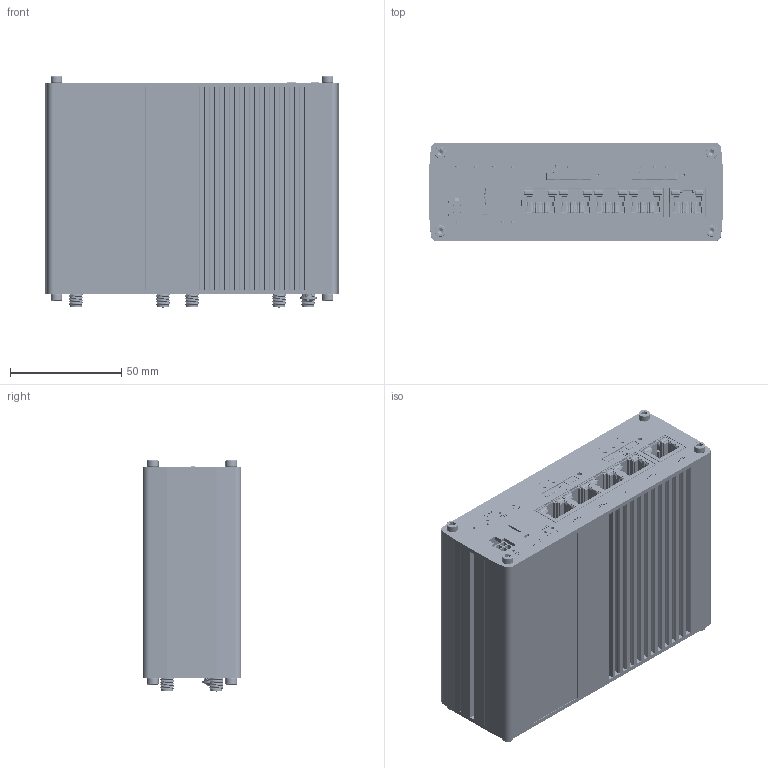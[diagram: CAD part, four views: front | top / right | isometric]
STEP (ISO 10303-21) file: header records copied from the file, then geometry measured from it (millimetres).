
FILE_DESCRIPTION (( 'STEP AP214' ), '1' );
FILE_NAME ('0636_RUTM16AMBK_01_with_press.STEP', '2025-12-12T07:30:36', ( '' ), ( '' ), 'SwSTEP 2.0', 'SolidWorks 2024', '' );
FILE_SCHEMA (( 'AUTOMOTIVE_DESIGN' ));
Length unit declared in the file: millimetre
Products named in the file (1): 0636_RUTM16AMBK_01_with_press
Bounding box: 132 x 44.2 x 104 mm (x, y, z)
Volume: 161369.1 mm3; surface area: 179873.4 mm2
Topology: 76 solids, 79 shells, 9865 faces, 27138 edges, 17690 vertices
Faces by surface type: plane 5813, cylinder 3104, bspline 762, torus 72, sphere 57, cone 57
Entity records: 460749 total; most frequent: CARTESIAN_POINT 110681, ORIENTED_EDGE 54112, DIRECTION 43989, EDGE_CURVE 27056, VERTEX_POINT 17691, LINE 17295, VECTOR 17295, AXIS2_PLACEMENT_3D 13347
